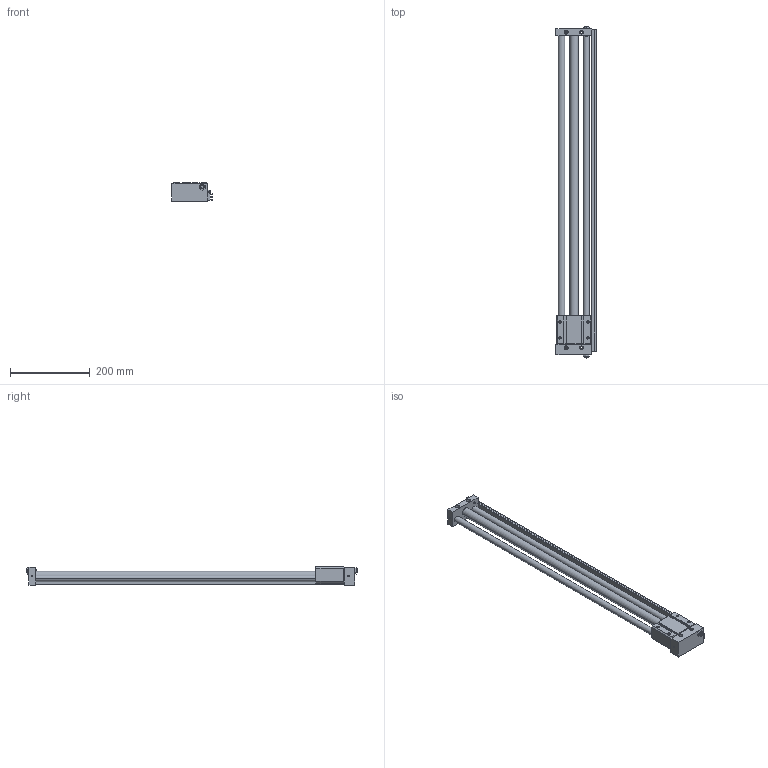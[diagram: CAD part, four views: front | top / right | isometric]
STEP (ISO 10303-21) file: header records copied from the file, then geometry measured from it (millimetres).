
FILE_DESCRIPTION((''),'2;1');
FILE_NAME('C:\Documents and Settings\Administrator\桌面\GYS\GYS20\GYSR20X700.stp','2012-03-06T20:20:36',('Administrator'),(''),'Autodesk Inventor 8','Autodesk Inventor 8','');
FILE_SCHEMA(('AUTOMOTIVE_DESIGN { 1 0 10303 214 1 1 1 1 }'));
Length unit declared in the file: millimetre
Products named in the file (3): GYSR20X700; GYS20X700; GYS20160X700
Assembly tree (2 placements, depth 2):
  GYSR20X700
    GYS20X700
    GYS20160X700
Bounding box: 100.5 x 831 x 46 mm (x, y, z)
Volume: 1081807.7 mm3; surface area: 267491.8 mm2
Topology: 2 solids, 2 shells, 243 faces, 626 edges, 408 vertices
Faces by surface type: plane 133, cylinder 76, cone 28, bspline 6
Entity records: 7564 total; most frequent: CARTESIAN_POINT 1356, DIRECTION 1306, ORIENTED_EDGE 1252, EDGE_CURVE 626, AXIS2_PLACEMENT_3D 438, VECTOR 430, LINE 430, VERTEX_POINT 408
